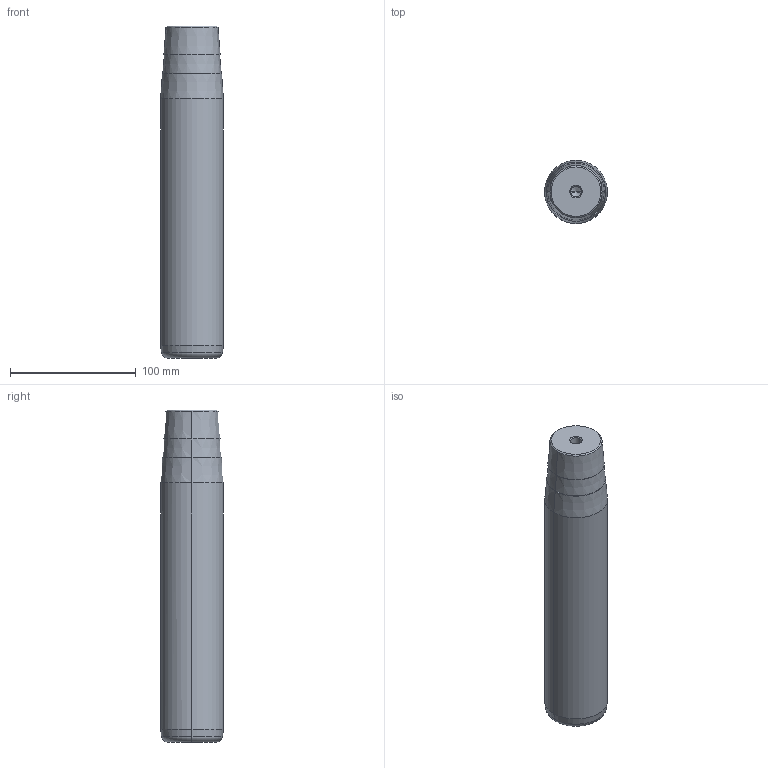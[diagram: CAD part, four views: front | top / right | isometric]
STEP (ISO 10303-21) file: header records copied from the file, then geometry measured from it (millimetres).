
FILE_DESCRIPTION(('CATIA V5 STEP Exchange'),'2;1');
FILE_NAME('C:\Users\Utente\Desktop\IO LAVORO\3D X SITO CF\X SITO\722\722-50x224x264.stp','2021-01-07T19:39:24+00:00',('none'),('none'),'CATIA Version 5 Release 20 GA (IN-10)','CATIA V5 STEP AP203','none');
FILE_SCHEMA(('CONFIG_CONTROL_DESIGN'));
Length unit declared in the file: millimetre
Products named in the file (1): 722-50x224x264
Bounding box: 50 x 50 x 264 mm (x, y, z)
Volume: 494642.6 mm3; surface area: 44867.9 mm2
Topology: 1 solids, 1 shells, 32 faces, 66 edges, 34 vertices
Faces by surface type: cone 22, cylinder 6, plane 2, torus 2
Entity records: 866 total; most frequent: CARTESIAN_POINT 189, ORIENTED_EDGE 124, DIRECTION 123, AXIS2_PLACEMENT_3D 64, EDGE_CURVE 62, EDGE_LOOP 34, VERTEX_POINT 34, ADVANCED_FACE 32
